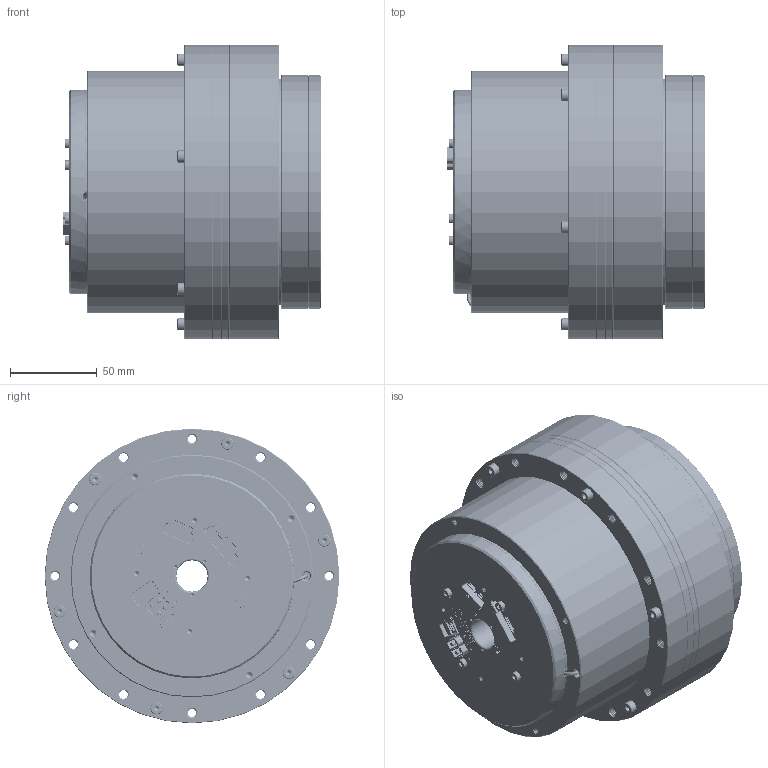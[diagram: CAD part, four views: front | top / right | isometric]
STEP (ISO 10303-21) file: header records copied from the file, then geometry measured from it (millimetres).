
FILE_DESCRIPTION (( 'STEP AP203' ), '1' );
FILE_NAME ('eRob170H｡ﾁ｡ﾁI-XX-18EX_V3_MC2A.DX.XX.step', '2024-05-21T10:23:23', ( 'Windows User' ), ( 'P R C' ), 'SwSTEP 2.0', 'SolidWorks 2021', '' );
FILE_SCHEMA (( 'CONFIG_CONTROL_DESIGN' ));
Length unit declared in the file: millimetre
Products named in the file (1): eRob170H××I-XX-18EX_V3_MC2A.DX.XX
Bounding box: 148.3 x 170 x 170 mm (x, y, z)
Volume: 2472023.4 mm3; surface area: 161049.4 mm2
Topology: 1 solids, 11 shells, 4762 faces, 12879 edges, 8375 vertices
Faces by surface type: plane 2451, cylinder 1565, bspline 513, cone 171, torus 62
Entity records: 271322 total; most frequent: CARTESIAN_POINT 160333, ORIENTED_EDGE 25578, DIRECTION 19755, EDGE_CURVE 12789, VERTEX_POINT 8375, LINE 8091, VECTOR 8091, AXIS2_PLACEMENT_3D 5832
